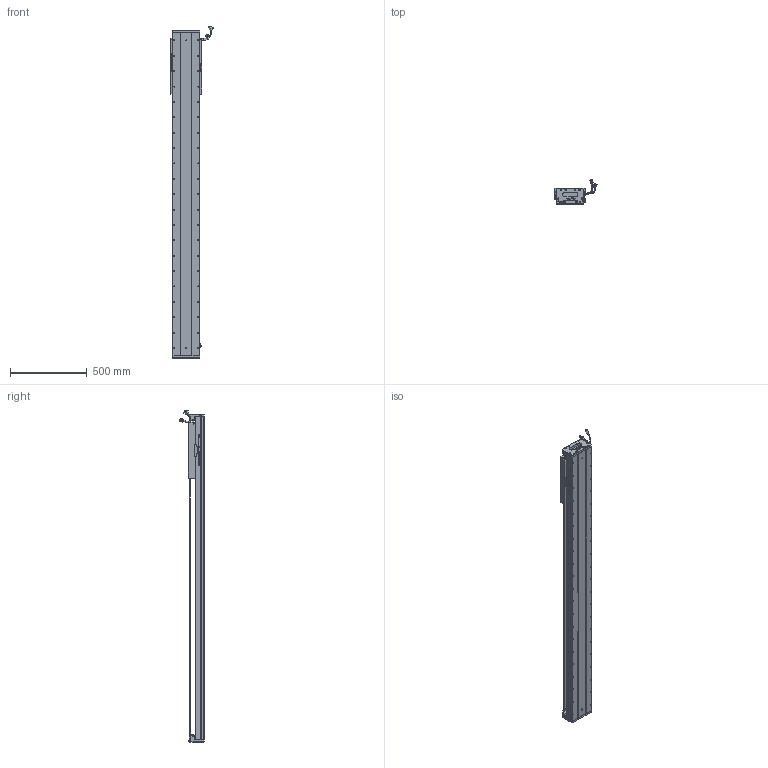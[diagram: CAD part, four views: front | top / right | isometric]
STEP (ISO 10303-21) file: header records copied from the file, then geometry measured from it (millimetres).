
FILE_DESCRIPTION (( 'STEP AP203' ), '1' );
FILE_NAME ('Z5-RY170D-1-L500-B-K.SLDASM_1650.step', '2021-05-18T00:41:23', ( '盈信电脑' ), ( '东莞市道滘镇水果街19号' ), 'SwSTEP 2.0', 'SolidWorks 2016', '' );
FILE_SCHEMA (( 'CONFIG_CONTROL_DESIGN' ));
Length unit declared in the file: millimetre
Products named in the file (36): SCREW-M1.6-2; RY170直线电机感应器672光电感应片; SCALE-Part-1; Z5-RY170臏賑輸(21遴); COVER-Part-1; SCREW-M1.6-3; 140蚥薯蝶輸; LABEL; SCREW-M1.6-1; SCREW-M1.6; Z5-RY170-L500詩湍145mm遵_1650; SCREW-M1.7; PSLH080_PSLF2; Z5-RY170D-1-L500-B-K.SLDASM_1650; HOLDER0; HARNESS-Part-1; SCREW-M1.7-1; SCALE; SEAL-Part-1; HARNESS; 榋妏寠巭燃_暯_M2_2; LABEL-Part-1; Z-RY170詩湍奻揤裔; 140雄赽晤鎢ん堤盄; 080黍杅芛假蚾釱21遴; SHIELDPLATE; SEAL; Z-RY170詩湍狟揤裔; PBU_SHEET; 覜茼ん672; Z5-RY170-L500耀郪菁釱_1650; COVER; 170-Z-臏賑輸盄裔(21遴); Z-170詩湍傷裔啣; SCALE-Part-2; HARNESS-Part-2
Assembly tree (41 placements, depth 4):
  Z5-RY170D-1-L500-B-K.SLDASM_1650
    Z5-RY170-L500耀郪菁釱_1650
    RY170直线电机感应器672光电感应片
    Z5-RY170臏賑輸(21遴)
    覜茼ん672  x3
    PSLH080_PSLF2
      SCALE
        SCALE-Part-1
        SCALE-Part-2
      HARNESS
        HARNESS-Part-1
        HARNESS-Part-2
      LABEL
        LABEL-Part-1
      COVER
        COVER-Part-1
      SEAL
        SEAL-Part-1
      榋妏寠巭燃_暯_M2_2
      SHIELDPLATE
      SCREW-M1.7
      SCREW-M1.7-1
      PBU_SHEET
      SCREW-M1.6
      SCREW-M1.6-1
      SCREW-M1.6-2
      SCREW-M1.6-3
      HOLDER0
    080黍杅芛假蚾釱21遴
    Z5-RY170-L500詩湍145mm遵_1650
    Z-170詩湍傷裔啣  x2
    Z-RY170詩湍奻揤裔  x2
    Z-RY170詩湍狟揤裔  x2
    140蚥薯蝶輸  x2
    170-Z-臏賑輸盄裔(21遴)
    140雄赽晤鎢ん堤盄
Bounding box: 275.34 x 158.11 x 2158.72 mm (x, y, z)
Volume: 11613428.5 mm3; surface area: 2783265 mm2
Topology: 36 solids, 36 shells, 3852 faces, 10577 edges, 6623 vertices
Faces by surface type: cylinder 1912, plane 1290, cone 528, torus 69, bspline 53
Entity records: 119385 total; most frequent: CARTESIAN_POINT 32454, ORIENTED_EDGE 17718, DIRECTION 16815, EDGE_CURVE 8859, AXIS2_PLACEMENT_3D 6214, VERTEX_POINT 5741, VECTOR 4387, LINE 4387
